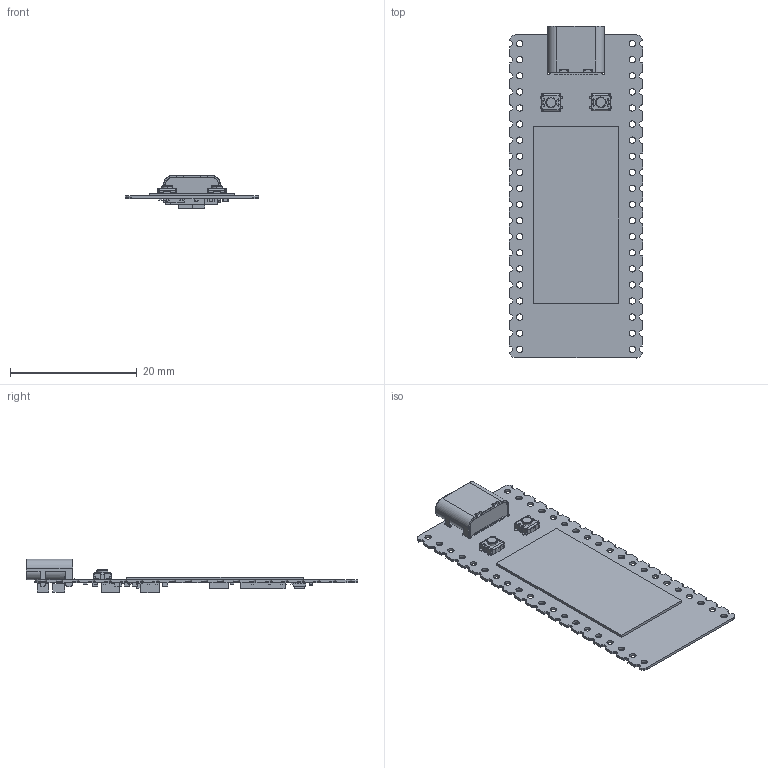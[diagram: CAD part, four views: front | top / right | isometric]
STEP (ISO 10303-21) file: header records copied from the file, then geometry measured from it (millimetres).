
FILE_DESCRIPTION(('Open CASCADE Model'),'2;1');
FILE_NAME('Open CASCADE Shape Model','2024-11-18T17:53:32',('Author'),( 'Open CASCADE'),'Open CASCADE STEP processor 6.5','Open CASCADE 6.5' ,'Unknown');
FILE_SCHEMA(('AUTOMOTIVE_DESIGN { 1 0 10303 214 1 1 1 1 }'));
Length unit declared in the file: millimetre
Products named in the file (107): PCB; Board; C17; User_Library-Chip_Cap_MLCC_0201_(0603); R24; User_Library-V0201HD; Anschl_X_FCsse_1; K_X_F6rper_1; R21; C18; U4; 1215455008; Extruded; C19; CAPC1608(0603); C11; C1; C2; C3; C4; C5; C7; C8; C9; C10; C12; C13; C14; C15; C16; C20; C21; C22; D1; 1215464864; D2; 1215453984; IND1; 1215459872; Key1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
Assembly tree (157 placements, depth 6):
  PCB
    Board
    C17
      User_Library-Chip_Cap_MLCC_0201_(0603)
    R24
      User_Library-V0201HD
        Anschl_X_FCsse_1
        K_X_F6rper_1
    R21
      User_Library-V0201HD
        Anschl_X_FCsse_1
        K_X_F6rper_1
    C18
      User_Library-Chip_Cap_MLCC_0201_(0603)
    U4
      1215455008
        Extruded
    C19
      CAPC1608(0603)
    C11
      User_Library-Chip_Cap_MLCC_0201_(0603)
    C1
      User_Library-Chip_Cap_MLCC_0201_(0603)
    C2
      CAPC1608(0603)
    C3
      User_Library-Chip_Cap_MLCC_0201_(0603)
    C4
      CAPC1608(0603)
    C5
      User_Library-Chip_Cap_MLCC_0201_(0603)
    C7
      User_Library-Chip_Cap_MLCC_0201_(0603)
    C8
      User_Library-Chip_Cap_MLCC_0201_(0603)
    C9
      User_Library-Chip_Cap_MLCC_0201_(0603)
    C10
      User_Library-Chip_Cap_MLCC_0201_(0603)
    C12
      User_Library-Chip_Cap_MLCC_0201_(0603)
    C13
      User_Library-Chip_Cap_MLCC_0201_(0603)
    C14
      User_Library-Chip_Cap_MLCC_0201_(0603)
    C15
      User_Library-Chip_Cap_MLCC_0201_(0603)
    C16
      User_Library-Chip_Cap_MLCC_0201_(0603)
    C20
      CAPC1608(0603)
    C21
      User_Library-Chip_Cap_MLCC_0201_(0603)
    C22
      User_Library-Chip_Cap_MLCC_0201_(0603)
    D1
      1215464864
        Extruded
    D2
      1215453984
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Bounding box: 21.02 x 52.42 x 5.26 mm (x, y, z)
Volume: 844 mm3; surface area: 3966 mm2
Topology: 113 solids, 113 shells, 5151 faces, 12708 edges, 7602 vertices
Faces by surface type: plane 2825, cylinder 1423, bspline 555, extrusion 273, sphere 64, torus 11
Full cylindrical faces by diameter (mm): 0.762 x2, 1 x40
Entity records: 132752 total; most frequent: CARTESIAN_POINT 38289, DIRECTION 15171, VECTOR 10636, LINE 10545, ORIENTED_EDGE 8976, PCURVE 8976, DEFINITIONAL_REPRESENTATION 8976, EDGE_CURVE 4488
